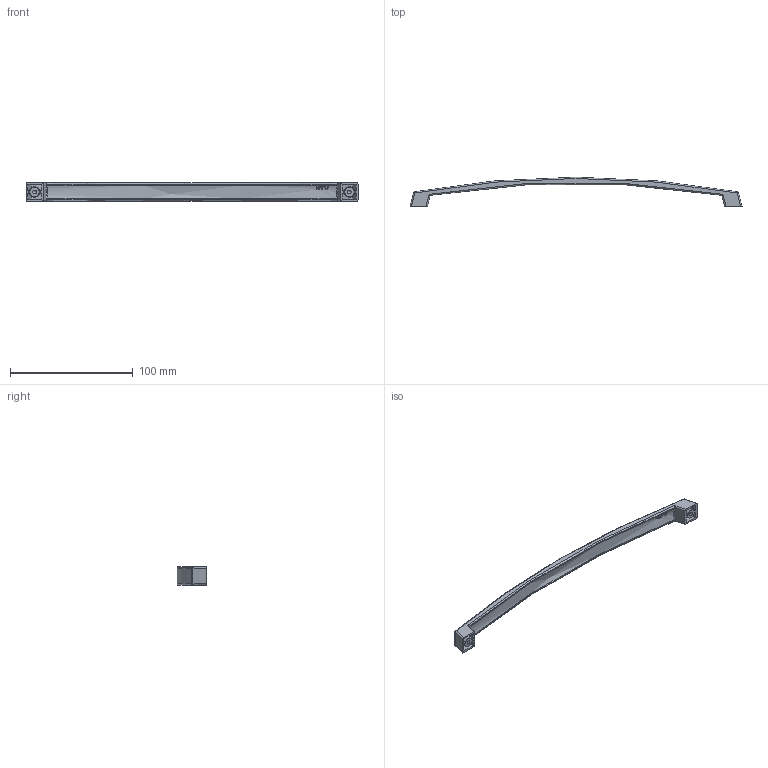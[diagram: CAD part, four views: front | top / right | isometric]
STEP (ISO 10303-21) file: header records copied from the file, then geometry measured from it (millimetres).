
FILE_DESCRIPTION(/* description */ (''),/* implementation_level */ '2;1');
FILE_NAME(/* name */ 'D:\$Workingspace\Designs\Meblowka\uchwyty\UZ-G0-\UZ-G0-256.stp',/* time_stamp */ '2019-09-19T12:06:18+02:00',/* author */ ('tomaszw'),/* organization */ (''),/* preprocessor_version */ 'ST-DEVELOPER v17.2',/* originating_system */ 'Autodesk Inventor 2019',/* authorisation */ '');
FILE_SCHEMA (('AUTOMOTIVE_DESIGN { 1 0 10303 214 3 1 1 }'));
Length unit declared in the file: millimetre
Products named in the file (1): UZ-G1-ECO-01
Bounding box: 270 x 24 x 15 mm (x, y, z)
Volume: 19809.7 mm3; surface area: 12832.7 mm2
Topology: 1 solids, 1 shells, 171 faces, 416 edges, 250 vertices
Faces by surface type: bspline 54, plane 48, cylinder 39, cone 14, sphere 8, torus 8
Full cylindrical faces by diameter (mm): 3.242 x2
Entity records: 6642 total; most frequent: CARTESIAN_POINT 2992, ORIENTED_EDGE 820, DIRECTION 634, EDGE_CURVE 410, AXIS2_PLACEMENT_3D 254, VERTEX_POINT 250, EDGE_LOOP 180, FACE_OUTER_BOUND 171
